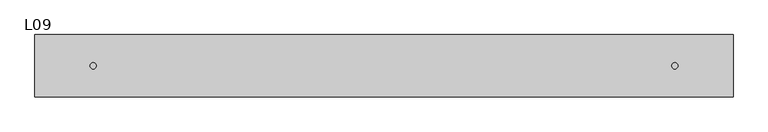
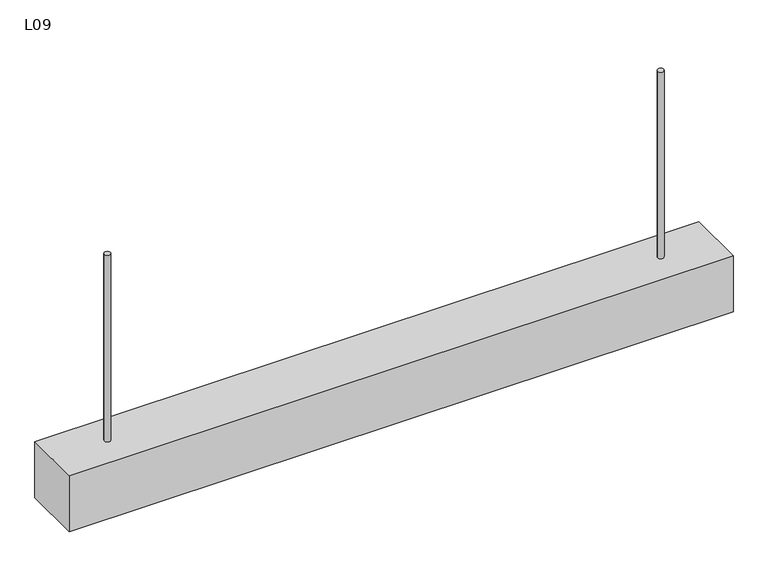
"""IFC4 building model written with IfcOpenShell, lengths in millimetres: light fixture geometry, ZYR_06.02.05 LLuminària Suspesa : L09."""

from ifc_helpers import new_model, si_unit, point, frame, frame_2d, origin, origin_with_axes, place, context, project, spatial, polyline, circle_curve, trimmed, segment, composite_curve, outline, extrude, source, transform, mapped, element, save


def l09_35758da2(model_context):
    return source(origin(), model_context, "Body", "SweptSolid", [
        extrude(outline(polyline([(560.0, 50.0), (560.0, -50.0), (-560.0, -50.0), (-560.0, 50.0), (560.0, 50.0)])), origin_with_axes(), (0.0, 0.0, 1.0), 100.0),
        extrude(outline(composite_curve([segment(trimmed(circle_curve(frame_2d((-466.6666667, 0.0)), 5.0), [point((-471.6666667, 0.0))], [point((-461.6666667, 0.0))], False, "CARTESIAN"), True, "CONTINUOUS"), segment(trimmed(circle_curve(frame_2d((-466.6666667, 0.0)), 5.0), [point((-461.6666667, 0.0))], [point((-471.6666667, 0.0))], False, "CARTESIAN"), True, "CONTINUOUS")], self_intersect=False)), frame((0.0, 0.0, 100.0), z_axis=(0.0, 0.0, 1.0), x_axis=(1.0, 0.0, 0.0)), (0.0, 0.0, 1.0), 333.3333333),
        extrude(outline(composite_curve([segment(trimmed(circle_curve(frame_2d((466.6666667, 0.0)), 5.0), [point((461.6666667, 0.0))], [point((471.6666667, 0.0))], False, "CARTESIAN"), True, "CONTINUOUS"), segment(trimmed(circle_curve(frame_2d((466.6666667, 0.0)), 5.0), [point((471.6666667, 0.0))], [point((461.6666667, 0.0))], False, "CARTESIAN"), True, "CONTINUOUS")], self_intersect=False)), frame((0.0, 0.0, 100.0), z_axis=(0.0, 0.0, 1.0), x_axis=(1.0, 0.0, 0.0)), (0.0, 0.0, 1.0), 333.3333333),
    ])


if __name__ == "__main__":
    model = new_model("IFC4")
    model_context = context("Model", 3, world=origin())
    ifc_project = project(units=[si_unit("LENGTHUNIT", "METRE", prefix="MILLI")], contexts=[model_context])
    site = spatial("IfcSite", under=ifc_project)
    building = spatial("IfcBuilding", under=site)
    placement = place(None, origin())
    l09_shape = l09_35758da2(model_context)
    element("IfcLightFixture", 1, ObjectType="ZYR_06.02.05 LLuminària Suspesa : L09", at=placement, inside=building, context=model_context, shape_type="MappedRepresentation", body=[
        mapped(l09_shape, transform((0.0, 0.0, 0.0), x_axis=(1.0, 0.0, 0.0), y_axis=(0.0, 1.0, 0.0), z_axis=(0.0, 0.0, 1.0))),
    ])
    save(model, "model.ifc")
